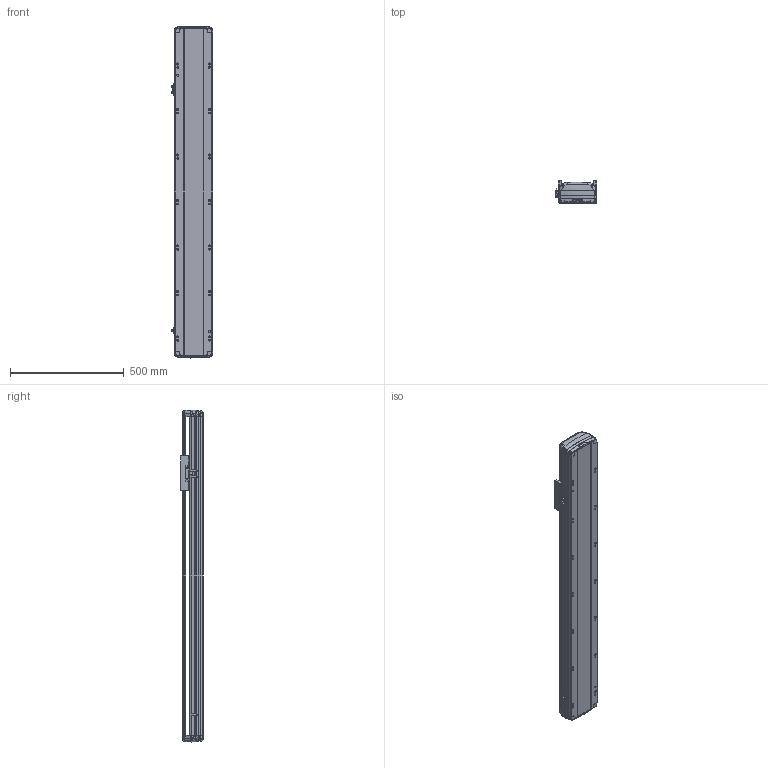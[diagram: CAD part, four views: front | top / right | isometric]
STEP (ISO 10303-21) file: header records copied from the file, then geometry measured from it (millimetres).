
FILE_DESCRIPTION (( 'STEP AP214' ), '1' );
FILE_NAME ('RTH17-XX-1050-B-M40-C4.STEP', '2025-10-24T08:39:07', ( '' ), ( '' ), 'SwSTEP 2.0', 'SolidWorks 2018', '' );
FILE_SCHEMA (( 'AUTOMOTIVE_DESIGN' ));
Length unit declared in the file: millimetre
Products named in the file (7): N_RTH17-M-011底座^RTH17-XX-XX-B-M40-C4（方程式）; N_RTH17-M-007上盖^RTH17-XX-XX-B-M40-C4（方程式）; N_RTH17-GY-001P^RTH17-XX-XX-B-M40-C4（方程式）; RTH17-XX-1050-B-M40-C4; N_RTH-L-012 感应片(外置)^RTH17-XX-XX-B-M40-C4（方程式）; N_OMRON EE-SX672 換覜ん^RTH17-XX-XX-B-M40-C4ㄗ源最宒ㄘ; N_RTH17-E-004丝杆螺母连接座^RTH17-XX-XX-B-M40-C4（方程式）
Assembly tree (9 placements, depth 2):
  RTH17-XX-1050-B-M40-C4
    N_RTH17-M-011底座^RTH17-XX-XX-B-M40-C4（方程式）
    N_RTH17-M-007上盖^RTH17-XX-XX-B-M40-C4（方程式）
    N_OMRON EE-SX672 換覜ん^RTH17-XX-XX-B-M40-C4ㄗ源最宒ㄘ  x3
    N_RTH-L-012 感应片(外置)^RTH17-XX-XX-B-M40-C4（方程式）
    N_RTH17-E-004丝杆螺母连接座^RTH17-XX-XX-B-M40-C4（方程式）
    N_RTH17-GY-001P^RTH17-XX-XX-B-M40-C4（方程式）  x2
Bounding box: 183.5 x 97 x 1459.88 mm (x, y, z)
Volume: 10610167.8 mm3; surface area: 1445203.9 mm2
Topology: 7 solids, 11 shells, 1752 faces, 4934 edges, 3206 vertices
Faces by surface type: plane 813, cylinder 473, bspline 420, cone 28, torus 18
Entity records: 41814 total; most frequent: CARTESIAN_POINT 17297, ORIENTED_EDGE 5372, DIRECTION 4246, EDGE_CURVE 2690, VERTEX_POINT 1760, VECTOR 1454, LINE 1454, AXIS2_PLACEMENT_3D 1396
